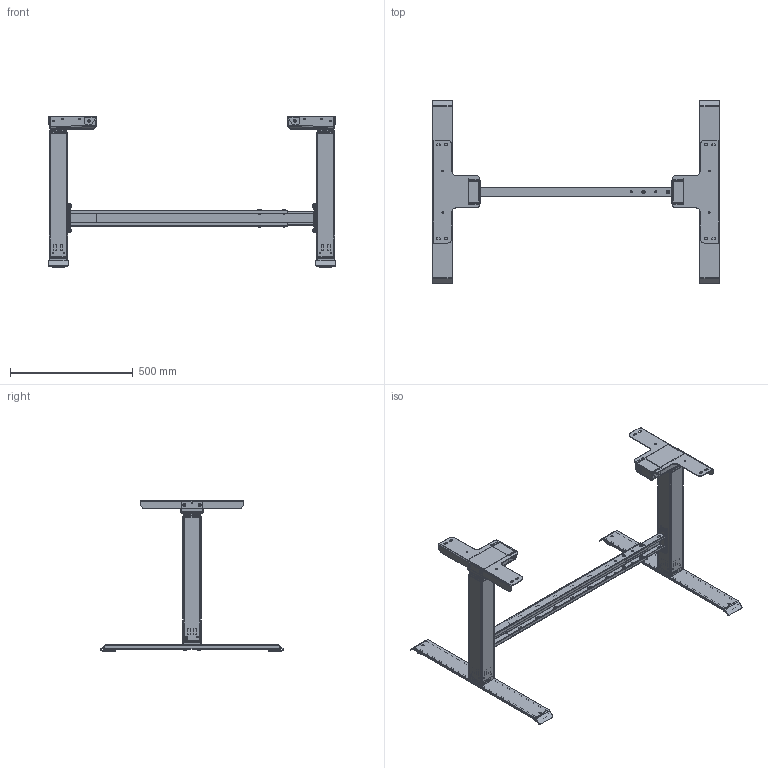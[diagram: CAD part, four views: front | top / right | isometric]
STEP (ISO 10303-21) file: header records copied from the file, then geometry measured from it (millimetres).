
FILE_DESCRIPTION(/* description */ ('Unknown'),/* implementation_level */ '2;1');
FILE_NAME(/* name */ 'Untergestell EA 2665 A XX XX_00-Eingefahren',/* time_stamp */ '2026-05-06T08:20:44+02:00',/* author */ ('Unknown'),/* organization */ ('Unknown'),/* preprocessor_version */ 'ST-DEVELOPER v20',/* originating_system */ 'Solid Edge',/* authorisation */ 'Unknown');
FILE_SCHEMA (('AUTOMOTIVE_DESIGN {1 0 10303 214 3 1 1}'));
Length unit declared in the file: millimetre
Products named in the file (24): Untergestell EA 2655 A XX XX; 127.00821; EA2 Tischfuss unten; EA2 Tischfuss oben; Regulierfuss; 801.00036; EA Aussenprofil; EA Mittelprofil; EA Innenprofil; EA Motorengehäuse; EA Deckel; EA Molex; 127.00842; E1 Traverse aussen; E1 Traverse innen; Halbrundkopfschraube M6x16; Scheibe ﾘ6,4; Sechskantmutter M6; Halbrundkopfschraube M8x10; 127.00801; Senkschraube M6x12 S; Senkschraube M6x12; Halbrundkopfschraube M6x32 S; Halbrundkopfschraube M6x32
Assembly tree (59 placements, depth 3):
  Untergestell EA 2655 A XX XX
    127.00821  x2
      EA2 Tischfuss unten
      EA2 Tischfuss oben
      Regulierfuss
    801.00036  x2
      EA Aussenprofil
      EA Mittelprofil
      EA Innenprofil
      EA Motorengehäuse
      EA Deckel
      EA Molex
    127.00842
      E1 Traverse aussen
      E1 Traverse innen
      Halbrundkopfschraube M6x16  x4
      Scheibe ﾘ6,4  x4
      Sechskantmutter M6  x4
      Halbrundkopfschraube M8x10  x4
    127.00801  x2
    Senkschraube M6x12 S  x8
    Senkschraube M6x12  x4
    Halbrundkopfschraube M6x32 S  x8
    Halbrundkopfschraube M6x32  x4
Bounding box: 1171 x 749.98 x 619.5 mm (x, y, z)
Volume: 3754412.8 mm3; surface area: 3375909.4 mm2
Topology: 68 solids, 68 shells, 3481 faces, 9317 edges, 6064 vertices
Faces by surface type: plane 1678, cylinder 1099, cone 320, torus 252, bspline 112, sphere 20
Full cylindrical faces by diameter (mm): 4.2 x4, 4.5 x8, 5 x28, 5.6 x16, 5.7 x16, 5.75 x4, 6 x34, 6.4 x4, 6.8 x4, 7.2 x12, 8 x4, 12 x16, 13.6 x4, 14 x4
Entity records: 53766 total; most frequent: CARTESIAN_POINT 13466, ORIENTED_EDGE 8456, DIRECTION 7701, EDGE_CURVE 4228, VERTEX_POINT 2811, AXIS2_PLACEMENT_3D 2665, LINE 2371, VECTOR 2371
